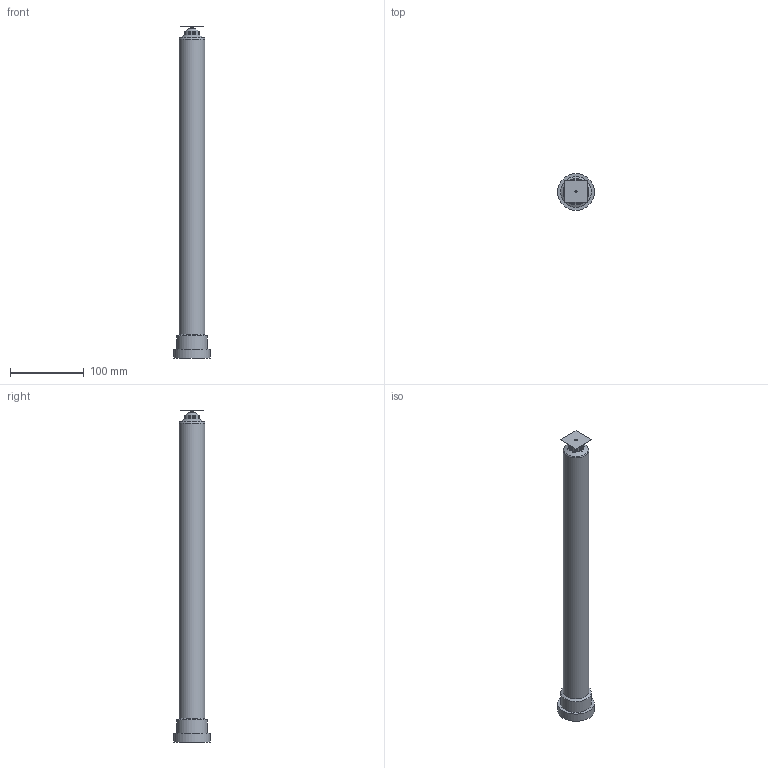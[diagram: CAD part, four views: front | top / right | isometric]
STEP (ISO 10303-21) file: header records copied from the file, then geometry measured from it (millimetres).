
FILE_DESCRIPTION (( 'STEP AP214' ), '1' );
FILE_NAME ('12E-06-450_VSW.STEP', '2020-11-17T06:44:34', ( '' ), ( '' ), 'SwSTEP 2.0', 'SolidWorks 2018', '' );
FILE_SCHEMA (( 'AUTOMOTIVE_DESIGN' ));
Length unit declared in the file: millimetre
Products named in the file (3): 12E-06-450_VSW; cutout_12E-06-450-VSW; nozzle_12E-06-450-VSW
Assembly tree (2 placements, depth 2):
  12E-06-450_VSW
    nozzle_12E-06-450-VSW
    cutout_12E-06-450-VSW
Bounding box: 50 x 50 x 450.3 mm (x, y, z)
Volume: 442057.1 mm3; surface area: 99936.3 mm2
Topology: 1 solids, 12 shells, 202 faces, 521 edges, 337 vertices
Faces by surface type: plane 93, cylinder 70, torus 28, cone 11
Full cylindrical faces by diameter (mm): 2 x2, 3 x2, 6 x2, 19.5 x1, 20 x3, 21 x1, 24 x1, 25 x1, 28 x1, 31 x1, 35 x1, 42 x1, 50 x1
Entity records: 6507 total; most frequent: CARTESIAN_POINT 1604, DIRECTION 1032, ORIENTED_EDGE 938, EDGE_CURVE 471, AXIS2_PLACEMENT_3D 396, VERTEX_POINT 326, EDGE_LOOP 252, VECTOR 240
